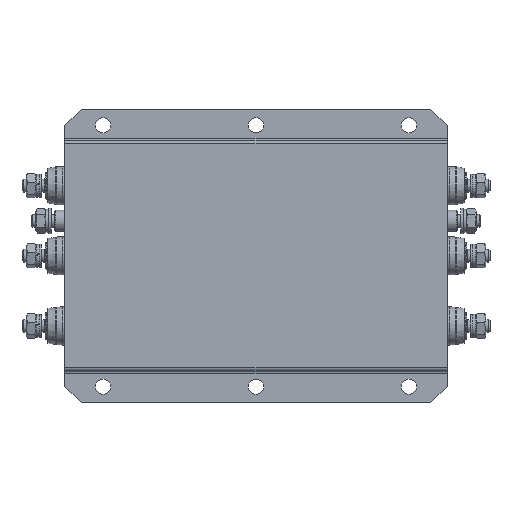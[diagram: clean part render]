
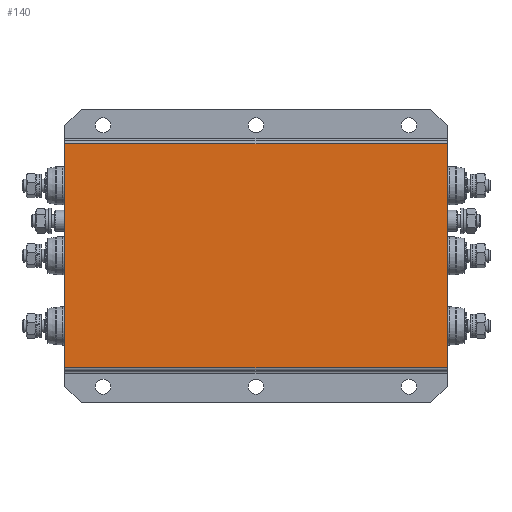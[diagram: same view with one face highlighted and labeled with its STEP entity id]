
A CAD part, top view. The second image highlights one B-rep face of the part: STEP entity #140.
In plain terms, the highlighted planar face has unit normal (0, 0, 1).
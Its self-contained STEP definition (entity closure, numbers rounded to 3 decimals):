
#73=CARTESIAN_POINT('',(150.,88.,0.0));
#74=VERTEX_POINT('',#73);
#92=CARTESIAN_POINT('',(-150.,88.0,0.0));
#93=VERTEX_POINT('',#92);
#101=CARTESIAN_POINT('',(-150.0,88.,0.0));
#102=DIRECTION('',(1.0,0.0,0.0));
#103=VECTOR('',#102,300.0);
#104=LINE('',#101,#103);
#105=EDGE_CURVE('',#93,#74,#104,.T.);
#110=CARTESIAN_POINT('',(0.0,0.,0.0));
#111=DIRECTION('',(0.0,0.0,1.0));
#112=DIRECTION('',(1.0,0.0,0.0));
#113=AXIS2_PLACEMENT_3D('',#110,#111,#112);
#114=PLANE('',#113);
#115=ORIENTED_EDGE('',*,*,#105,.F.);
#116=CARTESIAN_POINT('',(-150.,-88.,0.0));
#117=VERTEX_POINT('',#116);
#118=CARTESIAN_POINT('',(-150.,-88.,0.0));
#119=DIRECTION('',(0.0,1.0,0.0));
#120=VECTOR('',#119,176.);
#121=LINE('',#118,#120);
#122=EDGE_CURVE('',#117,#93,#121,.T.);
#123=ORIENTED_EDGE('',*,*,#122,.F.);
#124=CARTESIAN_POINT('',(150.,-88.,0.0));
#125=VERTEX_POINT('',#124);
#126=CARTESIAN_POINT('',(150.,-88.,0.0));
#127=DIRECTION('',(-1.0,0.0,0.0));
#128=VECTOR('',#127,300.0);
#129=LINE('',#126,#128);
#130=EDGE_CURVE('',#125,#117,#129,.T.);
#131=ORIENTED_EDGE('',*,*,#130,.F.);
#132=CARTESIAN_POINT('',(150.,88.,0.0));
#133=DIRECTION('',(0.0,-1.0,0.0));
#134=VECTOR('',#133,176.);
#135=LINE('',#132,#134);
#136=EDGE_CURVE('',#74,#125,#135,.T.);
#137=ORIENTED_EDGE('',*,*,#136,.F.);
#138=EDGE_LOOP('',(#115,#123,#131,#137));
#139=FACE_OUTER_BOUND('',#138,.T.);
#140=ADVANCED_FACE('',(#139),#114,.T.);
